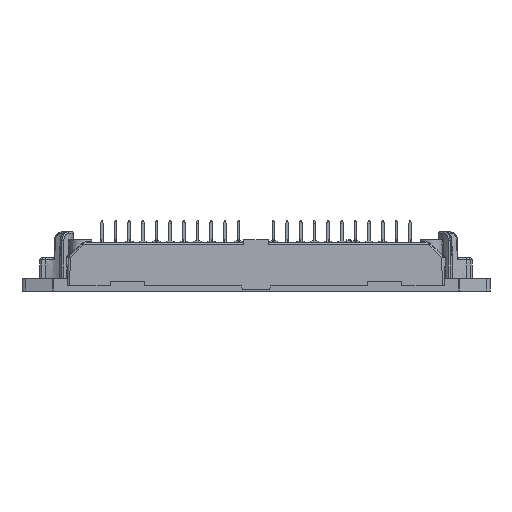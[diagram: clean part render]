
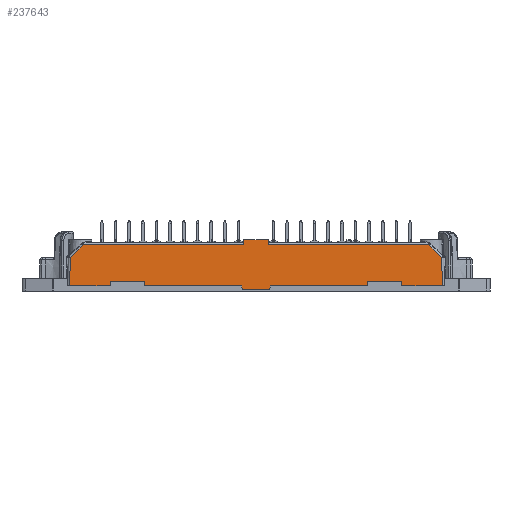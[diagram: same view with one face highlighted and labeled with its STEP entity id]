
A CAD part, front view. The second image highlights one B-rep face of the part: STEP entity #237643.
In plain terms, the highlighted planar face has unit normal (0, -1, 0.026).
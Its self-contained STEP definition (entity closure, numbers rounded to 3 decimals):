
#29013=ORIENTED_EDGE('',*,*,#74682,.F.);
#29014=ORIENTED_EDGE('',*,*,#74683,.T.);
#29015=ORIENTED_EDGE('',*,*,#74684,.F.);
#29016=ORIENTED_EDGE('',*,*,#74685,.T.);
#29017=ORIENTED_EDGE('',*,*,#74686,.T.);
#29018=ORIENTED_EDGE('',*,*,#73040,.F.);
#29019=ORIENTED_EDGE('',*,*,#73038,.T.);
#29020=ORIENTED_EDGE('',*,*,#74420,.F.);
#29021=ORIENTED_EDGE('',*,*,#73033,.T.);
#29022=ORIENTED_EDGE('',*,*,#74541,.T.);
#29023=ORIENTED_EDGE('',*,*,#73031,.T.);
#29024=ORIENTED_EDGE('',*,*,#73029,.T.);
#29025=ORIENTED_EDGE('',*,*,#74687,.T.);
#29026=ORIENTED_EDGE('',*,*,#74688,.F.);
#29027=ORIENTED_EDGE('',*,*,#74689,.T.);
#29028=ORIENTED_EDGE('',*,*,#74690,.T.);
#29029=ORIENTED_EDGE('',*,*,#74691,.T.);
#29030=ORIENTED_EDGE('',*,*,#73061,.F.);
#29031=ORIENTED_EDGE('',*,*,#73065,.T.);
#29032=ORIENTED_EDGE('',*,*,#73070,.F.);
#29033=ORIENTED_EDGE('',*,*,#73071,.F.);
#29034=ORIENTED_EDGE('',*,*,#73075,.T.);
#73029=EDGE_CURVE('',#93797,#94134,#114909,.T.);
#73031=EDGE_CURVE('',#94136,#93797,#114911,.T.);
#73033=EDGE_CURVE('',#94137,#94138,#114912,.F.);
#73038=EDGE_CURVE('',#93800,#94140,#114916,.F.);
#73040=EDGE_CURVE('',#93800,#94142,#114918,.T.);
#73061=EDGE_CURVE('',#94157,#94158,#114935,.F.);
#73065=EDGE_CURVE('',#94157,#94161,#114939,.T.);
#73070=EDGE_CURVE('',#94164,#94161,#114944,.F.);
#73071=EDGE_CURVE('',#94165,#94164,#114945,.T.);
#73075=EDGE_CURVE('',#94165,#94167,#114949,.F.);
#74420=EDGE_CURVE('',#94137,#94140,#115525,.T.);
#74541=EDGE_CURVE('',#94138,#94136,#115576,.T.);
#74682=EDGE_CURVE('',#95345,#94167,#115632,.F.);
#74683=EDGE_CURVE('',#95345,#95346,#115633,.F.);
#74684=EDGE_CURVE('',#95347,#95346,#115634,.F.);
#74685=EDGE_CURVE('',#95347,#95348,#115635,.F.);
#74686=EDGE_CURVE('',#95348,#94142,#115636,.F.);
#74687=EDGE_CURVE('',#94134,#95349,#115637,.F.);
#74688=EDGE_CURVE('',#95350,#95349,#115638,.F.);
#74689=EDGE_CURVE('',#95350,#95351,#115639,.F.);
#74690=EDGE_CURVE('',#95351,#95352,#115640,.F.);
#74691=EDGE_CURVE('',#95352,#94158,#115641,.F.);
#93797=VERTEX_POINT('',#329186);
#93800=VERTEX_POINT('',#329196);
#94134=VERTEX_POINT('',#333387);
#94136=VERTEX_POINT('',#333393);
#94137=VERTEX_POINT('',#333397);
#94138=VERTEX_POINT('',#333398);
#94140=VERTEX_POINT('',#333405);
#94142=VERTEX_POINT('',#333411);
#94157=VERTEX_POINT('',#333476);
#94158=VERTEX_POINT('',#333477);
#94161=VERTEX_POINT('',#333485);
#94164=VERTEX_POINT('',#333493);
#94165=VERTEX_POINT('',#333497);
#94167=VERTEX_POINT('',#333503);
#95345=VERTEX_POINT('',#338695);
#95346=VERTEX_POINT('',#338697);
#95347=VERTEX_POINT('',#338699);
#95348=VERTEX_POINT('',#338701);
#95349=VERTEX_POINT('',#338704);
#95350=VERTEX_POINT('',#338706);
#95351=VERTEX_POINT('',#338708);
#95352=VERTEX_POINT('',#338710);
#114909=LINE('',#333388,#135374);
#114911=LINE('',#333392,#135376);
#114912=LINE('',#333396,#135377);
#114916=LINE('',#333406,#135381);
#114918=LINE('',#333410,#135383);
#114935=LINE('',#333475,#135400);
#114939=LINE('',#333484,#135404);
#114944=LINE('',#333494,#135409);
#114945=LINE('',#333496,#135410);
#114949=LINE('',#333505,#135414);
#115525=LINE('',#337742,#135990);
#115576=LINE('',#338166,#136041);
#115632=LINE('',#338694,#136097);
#115633=LINE('',#338696,#136098);
#115634=LINE('',#338698,#136099);
#115635=LINE('',#338700,#136100);
#115636=LINE('',#338702,#136101);
#115637=LINE('',#338703,#136102);
#115638=LINE('',#338705,#136103);
#115639=LINE('',#338707,#136104);
#115640=LINE('',#338709,#136105);
#115641=LINE('',#338711,#136106);
#135374=VECTOR('',#277468,1000.);
#135376=VECTOR('',#277472,1000.);
#135377=VECTOR('',#277477,1000.);
#135381=VECTOR('',#277485,1000.);
#135383=VECTOR('',#277489,1000.);
#135400=VECTOR('',#277522,1000.);
#135404=VECTOR('',#277528,1000.);
#135409=VECTOR('',#277535,1000.);
#135410=VECTOR('',#277538,1000.);
#135414=VECTOR('',#277544,1000.);
#135990=VECTOR('',#279652,1000.);
#136041=VECTOR('',#279795,1000.);
#136097=VECTOR('',#279979,1000.);
#136098=VECTOR('',#279980,1000.);
#136099=VECTOR('',#279981,1000.);
#136100=VECTOR('',#279982,1000.);
#136101=VECTOR('',#279983,1000.);
#136102=VECTOR('',#279984,1000.);
#136103=VECTOR('',#279985,1000.);
#136104=VECTOR('',#279986,1000.);
#136105=VECTOR('',#279987,1000.);
#136106=VECTOR('',#279988,1000.);
#147869=EDGE_LOOP('',(#29013,#29014,#29015,#29016,#29017,#29018,#29019,
#29020,#29021,#29022,#29023,#29024,#29025,#29026,#29027,#29028,#29029,#29030,
#29031,#29032,#29033,#29034));
#157567=FACE_BOUND('',#147869,.T.);
#166721=PLANE('',#247464);
#237643=ADVANCED_FACE('',(#157567),#166721,.T.);
#247464=AXIS2_PLACEMENT_3D('',#338693,#279977,#279978);
#277468=DIRECTION('',(-0.707,-0.019,-0.707));
#277472=DIRECTION('',(-1.,0.,0.));
#277477=DIRECTION('',(1.,0.,0.));
#277485=DIRECTION('',(1.,0.,0.));
#277489=DIRECTION('',(0.707,-0.019,-0.707));
#277522=DIRECTION('',(1.,0.,0.));
#277528=DIRECTION('',(0.174,-0.026,-0.984));
#277535=DIRECTION('',(1.,0.,0.));
#277538=DIRECTION('',(-0.174,-0.026,-0.984));
#277544=DIRECTION('',(-1.,0.,0.));
#279652=DIRECTION('',(0.017,-0.026,-1.));
#279795=DIRECTION('',(-0.017,-0.026,-1.));
#279977=DIRECTION('',(0.,-1.,0.026));
#279978=DIRECTION('',(0.,-0.026,-1.));
#279979=DIRECTION('',(0.,0.026,1.));
#279980=DIRECTION('',(-1.,0.,0.));
#279981=DIRECTION('',(0.,-0.026,-1.));
#279982=DIRECTION('',(-1.,0.,0.));
#279983=DIRECTION('',(0.026,-0.026,-0.999));
#279984=DIRECTION('',(0.026,0.026,0.999));
#279985=DIRECTION('',(1.,0.,0.));
#279986=DIRECTION('',(0.,-0.026,-1.));
#279987=DIRECTION('',(-1.,0.,0.));
#279988=DIRECTION('',(0.,0.026,1.));
#329186=CARTESIAN_POINT('',(-40.443,-30.719,7.363));
#329196=CARTESIAN_POINT('',(40.443,-30.719,7.363));
#333387=CARTESIAN_POINT('',(-43.474,-30.798,4.332));
#333388=CARTESIAN_POINT('',(-23.298,-30.27,24.508));
#333392=CARTESIAN_POINT('',(0.,-30.719,7.363));
#333393=CARTESIAN_POINT('',(-2.845,-30.719,7.363));
#333396=CARTESIAN_POINT('',(0.,-30.689,8.5));
#333397=CARTESIAN_POINT('',(2.825,-30.689,8.5));
#333398=CARTESIAN_POINT('',(-2.825,-30.689,8.5));
#333405=CARTESIAN_POINT('',(2.845,-30.719,7.363));
#333406=CARTESIAN_POINT('',(0.,-30.719,7.363));
#333410=CARTESIAN_POINT('',(23.298,-30.27,24.508));
#333411=CARTESIAN_POINT('',(43.474,-30.798,4.332));
#333475=CARTESIAN_POINT('',(0.,-30.972,-2.3));
#333476=CARTESIAN_POINT('',(-3.359,-30.972,-2.3));
#333477=CARTESIAN_POINT('',(-26.147,-30.972,-2.3));
#333484=CARTESIAN_POINT('',(-3.861,-30.897,0.546));
#333485=CARTESIAN_POINT('',(-3.218,-30.993,-3.1));
#333493=CARTESIAN_POINT('',(3.218,-30.993,-3.1));
#333494=CARTESIAN_POINT('',(3.5,-30.993,-3.1));
#333496=CARTESIAN_POINT('',(3.861,-30.897,0.546));
#333497=CARTESIAN_POINT('',(3.359,-30.972,-2.3));
#333503=CARTESIAN_POINT('',(26.147,-30.972,-2.3));
#333505=CARTESIAN_POINT('',(0.,-30.972,-2.3));
#337742=CARTESIAN_POINT('',(2.849,-30.725,7.119));
#338166=CARTESIAN_POINT('',(-2.849,-30.725,7.119));
#338693=CARTESIAN_POINT('',(0.,-30.879,1.226));
#338694=CARTESIAN_POINT('',(26.147,-30.879,1.226));
#338695=CARTESIAN_POINT('',(26.147,-30.945,-1.3));
#338696=CARTESIAN_POINT('',(0.,-30.945,-1.3));
#338697=CARTESIAN_POINT('',(34.147,-30.945,-1.3));
#338698=CARTESIAN_POINT('',(34.147,-30.879,1.226));
#338699=CARTESIAN_POINT('',(34.147,-30.972,-2.3));
#338700=CARTESIAN_POINT('',(0.,-30.972,-2.3));
#338701=CARTESIAN_POINT('',(43.647,-30.972,-2.3));
#338702=CARTESIAN_POINT('',(43.525,-30.849,2.365));
#338703=CARTESIAN_POINT('',(-43.525,-30.849,2.365));
#338704=CARTESIAN_POINT('',(-43.647,-30.972,-2.3));
#338705=CARTESIAN_POINT('',(0.,-30.972,-2.3));
#338706=CARTESIAN_POINT('',(-34.147,-30.972,-2.3));
#338707=CARTESIAN_POINT('',(-34.147,-30.879,1.226));
#338708=CARTESIAN_POINT('',(-34.147,-30.945,-1.3));
#338709=CARTESIAN_POINT('',(0.,-30.945,-1.3));
#338710=CARTESIAN_POINT('',(-26.147,-30.945,-1.3));
#338711=CARTESIAN_POINT('',(-26.147,-30.879,1.226));
